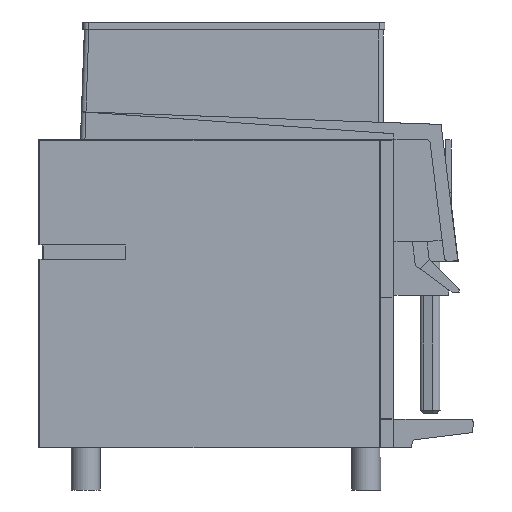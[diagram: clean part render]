
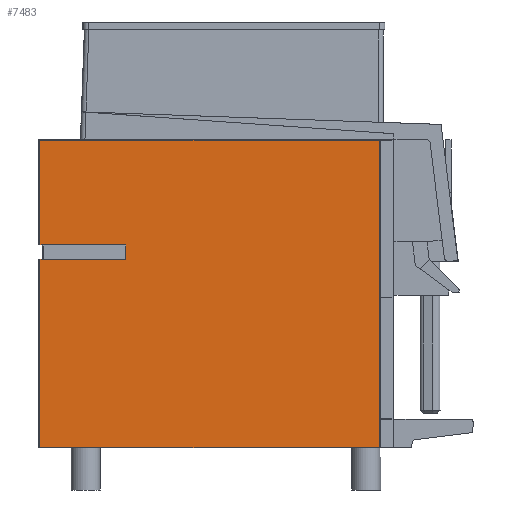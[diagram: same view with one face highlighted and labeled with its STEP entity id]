
A CAD part, left-side view. The second image highlights one B-rep face of the part: STEP entity #7483.
In plain terms, the highlighted planar face has unit normal (-1, 0, 0).
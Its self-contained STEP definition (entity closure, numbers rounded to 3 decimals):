
#726=ORIENTED_EDGE('',*,*,#2183,.F.);
#727=ORIENTED_EDGE('',*,*,#2253,.T.);
#728=ORIENTED_EDGE('',*,*,#2254,.T.);
#729=ORIENTED_EDGE('',*,*,#2255,.T.);
#730=ORIENTED_EDGE('',*,*,#2256,.F.);
#731=ORIENTED_EDGE('',*,*,#2257,.F.);
#732=ORIENTED_EDGE('',*,*,#2258,.F.);
#733=ORIENTED_EDGE('',*,*,#2259,.T.);
#734=ORIENTED_EDGE('',*,*,#2260,.T.);
#735=ORIENTED_EDGE('',*,*,#2261,.T.);
#2183=EDGE_CURVE('',#2941,#2942,#3429,.T.);
#2253=EDGE_CURVE('',#2941,#2986,#3488,.T.);
#2254=EDGE_CURVE('',#2986,#2987,#3489,.F.);
#2255=EDGE_CURVE('',#2987,#2988,#3490,.F.);
#2256=EDGE_CURVE('',#2989,#2988,#3491,.T.);
#2257=EDGE_CURVE('',#2990,#2989,#3492,.T.);
#2258=EDGE_CURVE('',#2991,#2990,#3493,.T.);
#2259=EDGE_CURVE('',#2991,#2992,#3494,.T.);
#2260=EDGE_CURVE('',#2992,#2993,#3495,.T.);
#2261=EDGE_CURVE('',#2993,#2942,#3496,.F.);
#2941=VERTEX_POINT('',#10333);
#2942=VERTEX_POINT('',#10335);
#2986=VERTEX_POINT('',#10470);
#2987=VERTEX_POINT('',#10472);
#2988=VERTEX_POINT('',#10474);
#2989=VERTEX_POINT('',#10476);
#2990=VERTEX_POINT('',#10478);
#2991=VERTEX_POINT('',#10480);
#2992=VERTEX_POINT('',#10482);
#2993=VERTEX_POINT('',#10484);
#3429=LINE('',#10334,#4063);
#3488=LINE('',#10469,#4122);
#3489=LINE('',#10471,#4123);
#3490=LINE('',#10473,#4124);
#3491=LINE('',#10475,#4125);
#3492=LINE('',#10477,#4126);
#3493=LINE('',#10479,#4127);
#3494=LINE('',#10481,#4128);
#3495=LINE('',#10483,#4129);
#3496=LINE('',#10485,#4130);
#4063=VECTOR('',#8630,1000.);
#4122=VECTOR('',#8753,1000.);
#4123=VECTOR('',#8754,1000.);
#4124=VECTOR('',#8755,1000.);
#4125=VECTOR('',#8756,1000.);
#4126=VECTOR('',#8757,1000.);
#4127=VECTOR('',#8758,1000.);
#4128=VECTOR('',#8759,1000.);
#4129=VECTOR('',#8760,1000.);
#4130=VECTOR('',#8761,1000.);
#4545=EDGE_LOOP('',(#726,#727,#728,#729,#730,#731,#732,#733,#734,#735));
#4864=FACE_BOUND('',#4545,.T.);
#5162=PLANE('',#7866);
#7483=ADVANCED_FACE('',(#4864),#5162,.F.);
#7866=AXIS2_PLACEMENT_3D('',#10468,#8751,#8752);
#8630=DIRECTION('',(0.,1.,0.));
#8751=DIRECTION('',(1.,0.,0.));
#8752=DIRECTION('',(0.,1.,0.));
#8753=DIRECTION('',(0.,0.,1.));
#8754=DIRECTION('',(0.,-1.,0.));
#8755=DIRECTION('',(0.,0.,1.));
#8756=DIRECTION('',(0.,1.,0.));
#8757=DIRECTION('',(0.,1.,0.));
#8758=DIRECTION('',(0.,0.,1.));
#8759=DIRECTION('',(0.,1.,0.));
#8760=DIRECTION('',(0.,1.,0.));
#8761=DIRECTION('',(0.,0.,1.));
#10333=CARTESIAN_POINT('',(-160.,-470.,0.));
#10334=CARTESIAN_POINT('',(-160.,-490.,0.));
#10335=CARTESIAN_POINT('',(-160.,-1.2,0.));
#10468=CARTESIAN_POINT('',(-160.,0.,0.));
#10469=CARTESIAN_POINT('',(-160.,-470.,420.5));
#10470=CARTESIAN_POINT('',(-160.,-470.,424.8));
#10471=CARTESIAN_POINT('',(-160.,0.,424.8));
#10472=CARTESIAN_POINT('',(-160.,-1.2,424.8));
#10473=CARTESIAN_POINT('',(-160.,-1.2,0.));
#10474=CARTESIAN_POINT('',(-160.,-1.2,280.));
#10475=CARTESIAN_POINT('',(-160.,-5.,280.));
#10476=CARTESIAN_POINT('',(-160.,-5.133,280.));
#10477=CARTESIAN_POINT('',(-160.,-120.,280.));
#10478=CARTESIAN_POINT('',(-160.,-120.,280.));
#10479=CARTESIAN_POINT('',(-160.,-120.,260.));
#10480=CARTESIAN_POINT('',(-160.,-120.,260.));
#10481=CARTESIAN_POINT('',(-160.,-120.,260.));
#10482=CARTESIAN_POINT('',(-160.,-5.133,260.));
#10483=CARTESIAN_POINT('',(-160.,-5.,260.));
#10484=CARTESIAN_POINT('',(-160.,-1.2,260.));
#10485=CARTESIAN_POINT('',(-160.,-1.2,0.));
